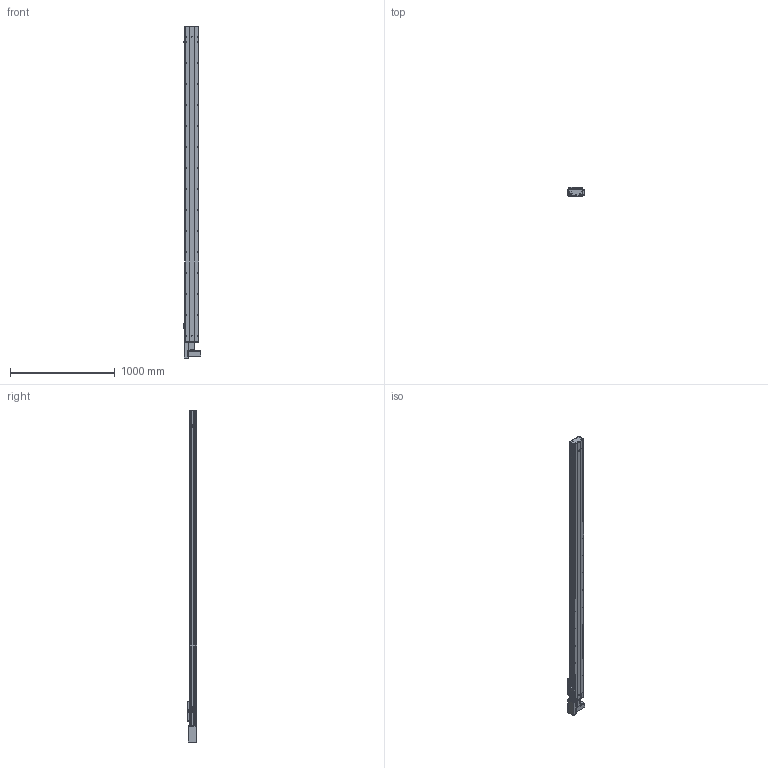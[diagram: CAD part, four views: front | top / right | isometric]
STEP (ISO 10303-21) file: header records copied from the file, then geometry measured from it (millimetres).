
FILE_DESCRIPTION (( 'STEP AP203' ), '1' );
FILE_NAME ('Y135CB-D90-S2700-BR-P400W.STEP', '2020-02-18T03:14:05', ( '微软用户' ), ( '微软中国' ), 'SwSTEP 2.0', 'SolidWorks 2017', '' );
FILE_SCHEMA (( 'CONFIG_CONTROL_DESIGN' ));
Length unit declared in the file: millimetre
Products named in the file (18): 135CB--詩湍-CE; Y10B-耜蚾蟀諉啣----; Y100-135俋离換覜ん--; Y俋欶BR----; Y135C-陔俋离換覜結え-; 0B-埴倛裔啣; 5C--俋欶; 0B-源倛裔啣; C-雄赽釱--; 0B-萇儂楊擘啣; Y10B--々湍喘謫眊--666; san松下电机400不带刹车----; Y135CB-耜裔; Y135CB-D90-S2700-BR-P400W; 5CB --掛极耜裔啣-; 135CB---遴掛极.-; C-詩湍揤踡え-陔; 35CB---喘謫眊楊擘啣
Assembly tree (21 placements, depth 2):
  Y135CB-D90-S2700-BR-P400W
    Y135CB-耜裔
    135CB---遴掛极.-
    35CB---喘謫眊楊擘啣
    Y10B-耜蚾蟀諉啣----
    Y俋欶BR----
    0B-埴倛裔啣
    0B-源倛裔啣
    0B-萇儂楊擘啣
    san松下电机400不带刹车----
    5CB --掛极耜裔啣-  x2
    C-詩湍揤踡え-陔  x2
    135CB--詩湍-CE
    Y100-135俋离換覜ん--  x3
    Y135C-陔俋离換覜結え-
    5C--俋欶
    C-雄赽釱--
    Y10B--々湍喘謫眊--666
Bounding box: 167.5 x 91 x 3164.5 mm (x, y, z)
Volume: 8801937.5 mm3; surface area: 3489665.1 mm2
Topology: 21 solids, 21 shells, 981 faces, 2689 edges, 1782 vertices
Faces by surface type: cylinder 507, plane 458, cone 16
Entity records: 31159 total; most frequent: CARTESIAN_POINT 5208, DIRECTION 5177, ORIENTED_EDGE 4854, EDGE_CURVE 2427, AXIS2_PLACEMENT_3D 1899, VERTEX_POINT 1610, LINE 1379, VECTOR 1379
